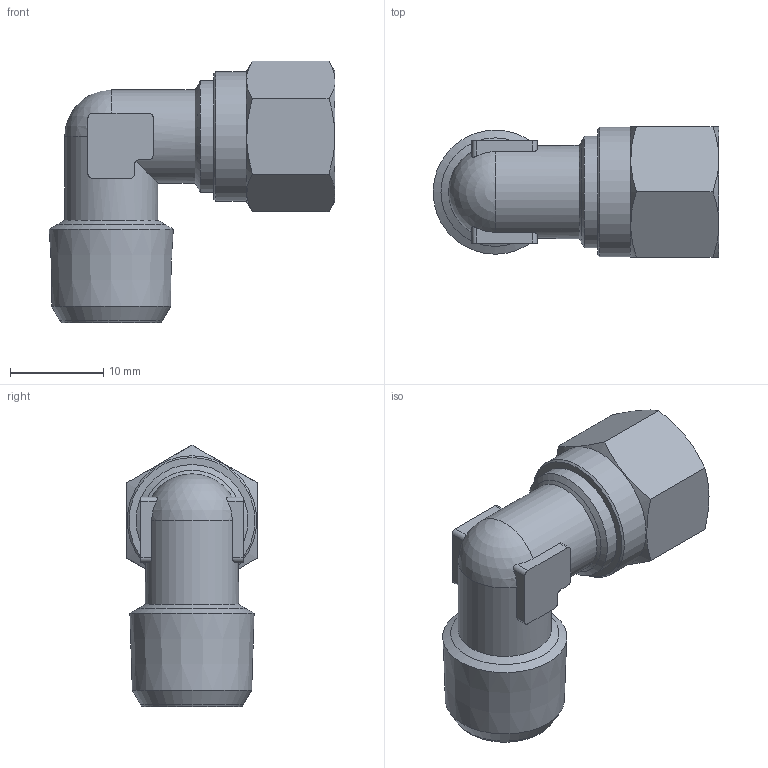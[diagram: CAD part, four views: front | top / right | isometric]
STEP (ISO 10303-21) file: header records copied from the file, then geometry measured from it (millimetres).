
FILE_DESCRIPTION(('Bauteilbeschreibung','HiCAD-Model','HiCAD-STEP-TRANSLATION','Bauteilbeschreibung'),'2;1');
FILE_NAME('B:/ABGLEICH/ZEICHNUNGEN/STEP FÜR INTERNET/STEP/205/92805_205_8_1-4.STP','2011-11-24T12:15:14+00:00',('Konstrukteur'),('Konstrukteur Firma GmbH'),' HiCAD neXt 2008, Step 3.1.1401.2J ','HiCAD neXt 2008','confidential');
FILE_SCHEMA(('AUTOMOTIVE_DESIGN { 1 2 10303 214 0 1 1 1 }'));
Length unit declared in the file: millimetre
Products named in the file (8): A2805_205_8_1_4; A2805S; A2805S0; R 1_4; DIN 13_M12X1; A6803; A68030; DIN0130M12X1
Assembly tree (7 placements, depth 3):
  A2805_205_8_1_4
    A2805S
    A2805S0
      R 1_4
      DIN 13_M12X1
    A6803
    A68030
      DIN0130M12X1
Bounding box: 30.66 x 14 x 28.08 mm (x, y, z)
Volume: 3287.3 mm3; surface area: 5370.2 mm2
Topology: 5 solids, 5 shells, 86 faces, 214 edges, 134 vertices
Faces by surface type: cylinder 29, cone 28, plane 28, sphere 1
Full cylindrical faces by diameter (mm): 6 x2, 8 x3, 10 x2, 10.773 x3, 12 x3, 13.9 x1
Entity records: 5035 total; most frequent: CARTESIAN_POINT 2293, DIRECTION 402, ORIENTED_EDGE 330, AXIS2_PLACEMENT_3D 176, EDGE_CURVE 165, COLOUR_RGB 150, PRESENTATION_STYLE_ASSIGNMENT 150, CURVE_STYLE 145
